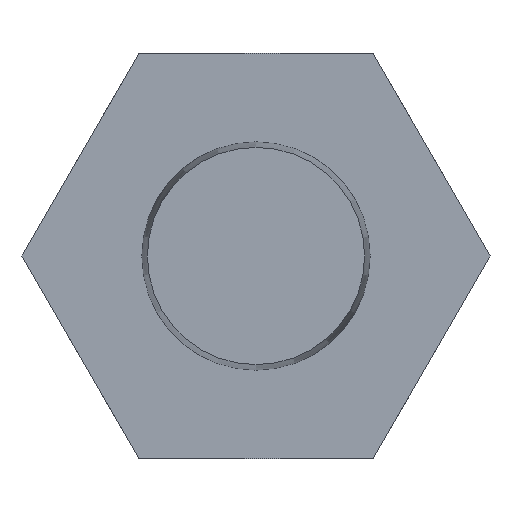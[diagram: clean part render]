
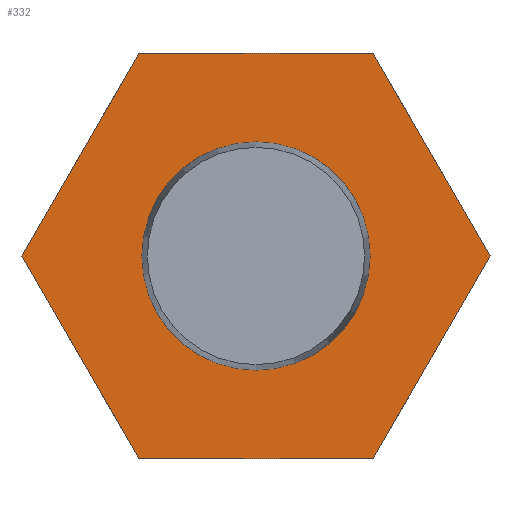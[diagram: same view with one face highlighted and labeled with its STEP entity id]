
A CAD part, front view. The second image highlights one B-rep face of the part: STEP entity #332.
In plain terms, the highlighted planar face has unit normal (0, -1, 0).
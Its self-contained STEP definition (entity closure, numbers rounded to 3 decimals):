
#21=LINE('',#585,#33);
#24=LINE('',#591,#36);
#26=LINE('',#595,#38);
#28=LINE('',#599,#40);
#30=LINE('',#603,#42);
#31=LINE('',#605,#43);
#33=VECTOR('',#452,1000.);
#36=VECTOR('',#457,1000.);
#38=VECTOR('',#461,1000.);
#40=VECTOR('',#465,1000.);
#42=VECTOR('',#469,1000.);
#43=VECTOR('',#472,1000.);
#58=PLANE('',#384);
#142=ORIENTED_EDGE('',*,*,#154,.F.);
#143=ORIENTED_EDGE('',*,*,#191,.T.);
#144=ORIENTED_EDGE('',*,*,#181,.T.);
#145=ORIENTED_EDGE('',*,*,#184,.T.);
#146=ORIENTED_EDGE('',*,*,#186,.T.);
#147=ORIENTED_EDGE('',*,*,#188,.T.);
#148=ORIENTED_EDGE('',*,*,#190,.T.);
#154=EDGE_CURVE('',#194,#194,#222,.T.);
#181=EDGE_CURVE('',#215,#214,#21,.T.);
#184=EDGE_CURVE('',#214,#216,#24,.T.);
#186=EDGE_CURVE('',#216,#217,#26,.T.);
#188=EDGE_CURVE('',#217,#218,#28,.T.);
#190=EDGE_CURVE('',#218,#219,#30,.T.);
#191=EDGE_CURVE('',#219,#215,#31,.T.);
#194=VERTEX_POINT('',#488);
#214=VERTEX_POINT('',#584);
#215=VERTEX_POINT('',#586);
#216=VERTEX_POINT('',#590);
#217=VERTEX_POINT('',#594);
#218=VERTEX_POINT('',#598);
#219=VERTEX_POINT('',#602);
#222=CIRCLE('',#351,6.76);
#265=EDGE_LOOP('',(#142));
#266=EDGE_LOOP('',(#143,#144,#145,#146,#147,#148));
#299=FACE_BOUND('',#265,.T.);
#300=FACE_BOUND('',#266,.T.);
#332=ADVANCED_FACE('',(#299,#300),#58,.F.);
#351=AXIS2_PLACEMENT_3D('',#487,#395,#396);
#384=AXIS2_PLACEMENT_3D('',#606,#473,#474);
#395=DIRECTION('',(0.,-1.,0.));
#396=DIRECTION('',(0.,0.,-1.));
#452=DIRECTION('',(0.5,0.,-0.866));
#457=DIRECTION('',(1.,0.,0.));
#461=DIRECTION('',(0.5,0.,0.866));
#465=DIRECTION('',(-0.5,0.,0.866));
#469=DIRECTION('',(-1.,0.,0.));
#472=DIRECTION('',(-0.5,0.,-0.866));
#473=DIRECTION('',(0.,1.,0.));
#474=DIRECTION('',(0.,0.,1.));
#487=CARTESIAN_POINT('',(0.,5.8,0.));
#488=CARTESIAN_POINT('',(0.,5.8,-6.76));
#584=CARTESIAN_POINT('',(-6.928,5.8,-12.));
#585=CARTESIAN_POINT('',(-6.792,5.8,-12.235));
#586=CARTESIAN_POINT('',(-13.856,5.8,0.));
#590=CARTESIAN_POINT('',(6.928,5.8,-12.));
#591=CARTESIAN_POINT('',(14.4,5.8,-12.));
#594=CARTESIAN_POINT('',(13.856,5.8,0.));
#595=CARTESIAN_POINT('',(13.992,5.8,0.235));
#598=CARTESIAN_POINT('',(6.928,5.8,12.));
#599=CARTESIAN_POINT('',(13.992,5.8,-0.235));
#602=CARTESIAN_POINT('',(-6.928,5.8,12.));
#603=CARTESIAN_POINT('',(14.4,5.8,12.));
#605=CARTESIAN_POINT('',(-6.792,5.8,12.235));
#606=CARTESIAN_POINT('',(14.4,5.8,0.));
